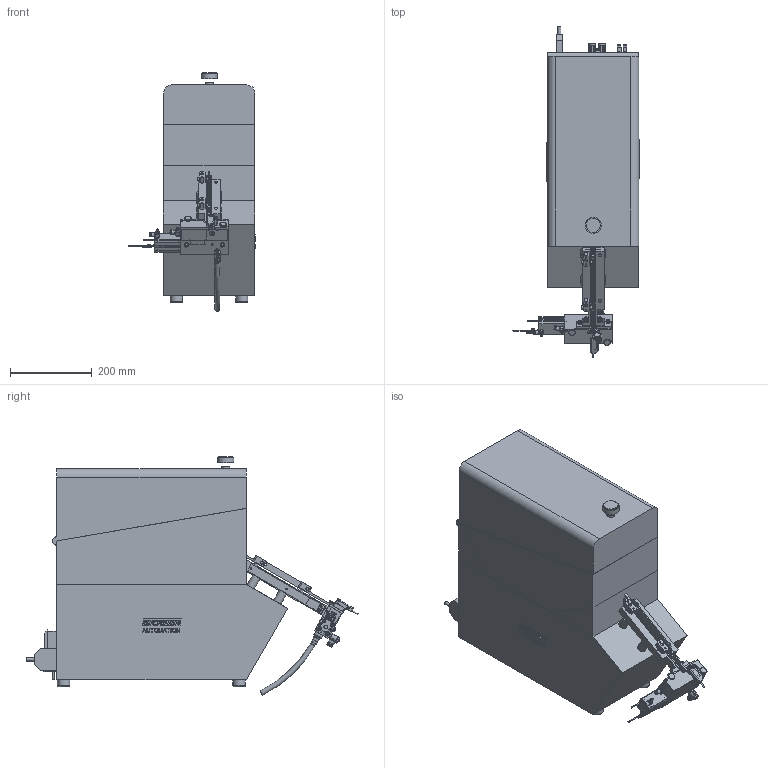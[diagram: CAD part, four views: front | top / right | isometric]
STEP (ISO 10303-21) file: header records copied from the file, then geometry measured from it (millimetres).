
FILE_DESCRIPTION(/* description */ ('© Copyright 2019 – Urheberrechtshinweis Diese CAD-Daten sind urheberrechtlich geschützt. Das Urheberrecht liegt, soweit nicht ausdrücklich anders gekennzeichnet, bei Stöger Automation GmbH. Bitte fragen Sie uns, falls Sie die CAD-Daten vervielfältigen oder','CAx-IF Rec.Pracs.---Representation and Presentation of Product Manufacturing Information (PMI)---4.0---2014-10-13'),/* implementation_level */ '2;1');
FILE_NAME(/* name */ 'H:\00_0 Arbeiten für Marketing\581426\3D_Step_file_SG3H ELK.stp',/* time_stamp */ '2020-07-03T11:38:10+02:00',/* author */ ('Stöger Automation GmbH'),/* organization */ ('Stöger Automation GmbH'),/* preprocessor_version */ 'ST-DEVELOPER v17',/* originating_system */ 'Autodesk Inventor 2018',/* authorisation */ '');
FILE_SCHEMA (('AP242_MANAGED_MODEL_BASED_3D_ENGINEERING_MIM_LF { 1 0 10303 442 1 1 4 }'));
Products named in the file (1): 581426
Bounding box: 310.3 x 813.41 x 584.45 mm (x, y, z)
Volume: 32882585.1 mm3; surface area: 1807713.7 mm2
Topology: 12 solids, 56 shells, 2876 faces, 7661 edges, 5047 vertices
Faces by surface type: plane 1690, cylinder 720, cone 225, bspline 152, torus 65, sphere 24
Full cylindrical faces by diameter (mm): 1.8 x2, 2 x9, 2.459 x4, 2.5 x4, 2.8 x1, 2.9 x2, 3 x4, 3.05 x1, 3.1 x1, 3.242 x18, 3.3 x6, 3.387 x2, 3.6 x3, 3.8 x2, 3.99 x4, 4 x39, 4.019 x6, 4.03 x7, 4.134 x6, 4.2 x4, 4.3 x6, 4.4 x6, 4.5 x2, 4.6 x3, 4.773 x1, 4.917 x2, 5 x7, 5.3 x2, 5.5 x4, 5.7 x2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
Entity records: 98126 total; most frequent: CARTESIAN_POINT 23465, ORIENTED_EDGE 15222, DIRECTION 14732, EDGE_CURVE 7611, AXIS2_PLACEMENT_3D 5106, VERTEX_POINT 5045, LINE 4520, VECTOR 4520
